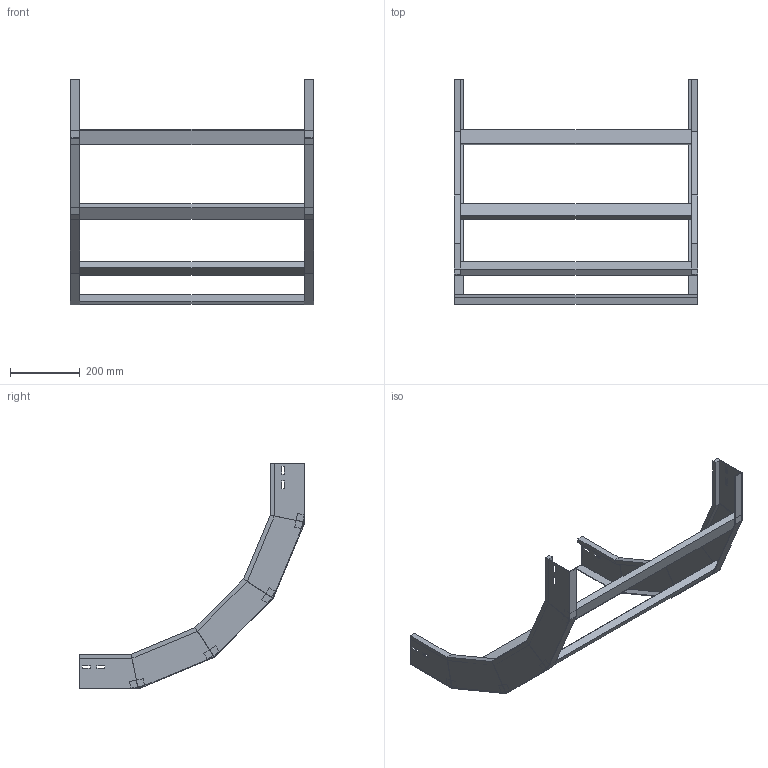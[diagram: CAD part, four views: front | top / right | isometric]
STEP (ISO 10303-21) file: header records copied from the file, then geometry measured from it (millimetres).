
FILE_DESCRIPTION (( 'STEP AP214' ), '1' );
FILE_NAME ('B2X30B5D700XX.step', '2025-03-20T10:21:00', ( '' ), ( '' ), 'SwSTEP 2.0', 'SolidWorks 2023', '' );
FILE_SCHEMA (( 'AUTOMOTIVE_DESIGN' ));
Length unit declared in the file: millimetre
Products named in the file (3): LONGH.SALITA_90°_H100_R500; B2X30B5D700XX; TRAVERSINO_700
Assembly tree (6 placements, depth 2):
  B2X30B5D700XX
    LONGH.SALITA_90°_H100_R500  x2
    TRAVERSINO_700  x4
Bounding box: 700 x 649.05 x 649.05 mm (x, y, z)
Volume: 3094445.4 mm3; surface area: 903983.1 mm2
Topology: 6 solids, 6 shells, 140 faces, 320 edges, 192 vertices
Faces by surface type: plane 140
Entity records: 1872 total; most frequent: CARTESIAN_POINT 309, ORIENTED_EDGE 296, DIRECTION 294, LINE 148, EDGE_CURVE 148, VECTOR 148, VERTEX_POINT 88, AXIS2_PLACEMENT_3D 73
